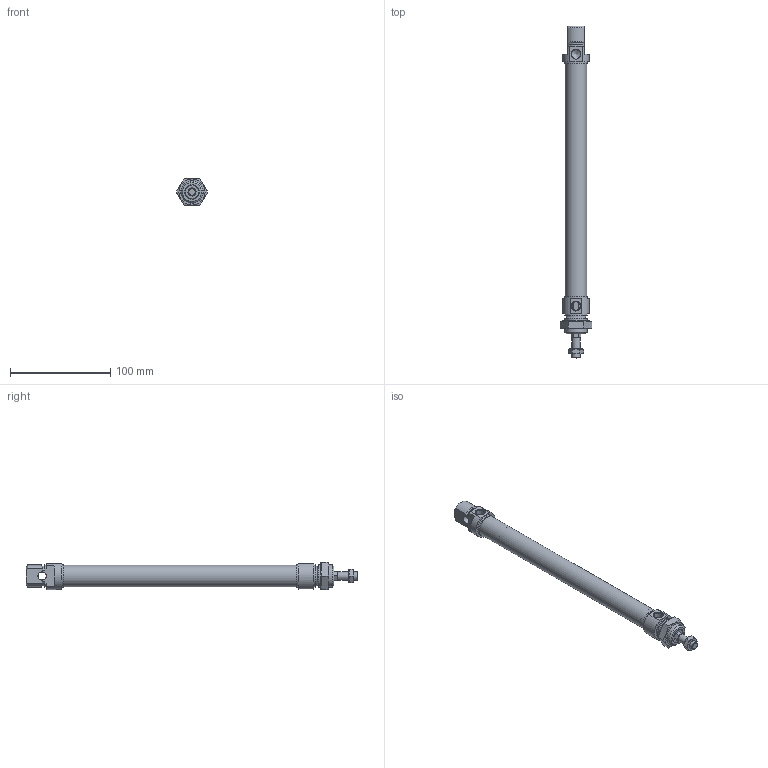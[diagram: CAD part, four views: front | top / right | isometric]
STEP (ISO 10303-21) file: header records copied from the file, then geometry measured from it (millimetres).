
FILE_DESCRIPTION(/* description */ ('Unknown'),/* implementation_level */ '2;1');
FILE_NAME(/* name */ 'RIMO 20_200',/* time_stamp */ '2024-09-02T09:52:46+02:00',/* author */ ('Unknown'),/* organization */ ('Unknown'),/* preprocessor_version */ 'ST-DEVELOPER v16.7',/* originating_system */ 'Solid Edge',/* authorisation */ 'Unknown');
FILE_SCHEMA (('AUTOMOTIVE_DESIGN {1 0 10303 214 3 1 1}'));
Length unit declared in the file: millimetre
Products named in the file (7): RIMO 20_200; Profilrohr; Kit_1; Kit_2; Kolbenstange; Mutter_1; Mutter_2
Assembly tree (6 placements, depth 2):
  RIMO 20_200
    Profilrohr
    Kit_1
    Kit_2
    Kolbenstange
    Mutter_1
    Mutter_2
Bounding box: 31.18 x 331 x 27 mm (x, y, z)
Volume: 63426 mm3; surface area: 53021.3 mm2
Topology: 6 solids, 11 shells, 167 faces, 374 edges, 233 vertices
Faces by surface type: plane 67, cone 58, cylinder 37, torus 5
Full cylindrical faces by diameter (mm): 6.647 x1, 8 x3, 8.3 x1, 8.56 x2, 8.566 x2, 10.5 x1, 11.1 x1, 12 x2, 14.1 x3, 16.1 x1, 16.2 x1, 17.9 x1, 19.7 x1, 20 x3, 20.376 x1, 21.27 x1, 22 x2, 22.2 x2
Entity records: 5403 total; most frequent: CARTESIAN_POINT 855, DIRECTION 704, ORIENTED_EDGE 584, AXIS2_PLACEMENT_3D 310, EDGE_CURVE 292, FACE_BOUND 257, EDGE_LOOP 256, VERTEX_POINT 215
